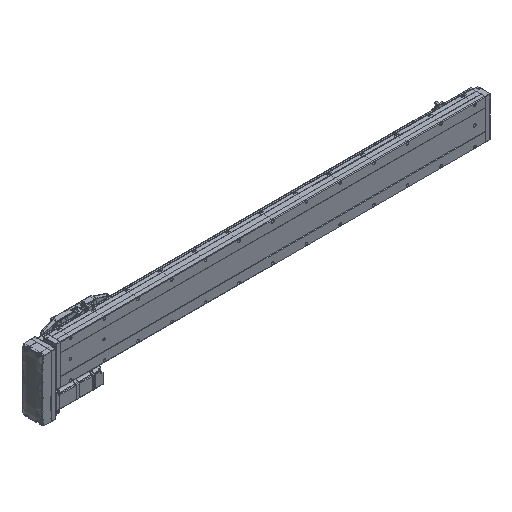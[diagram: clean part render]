
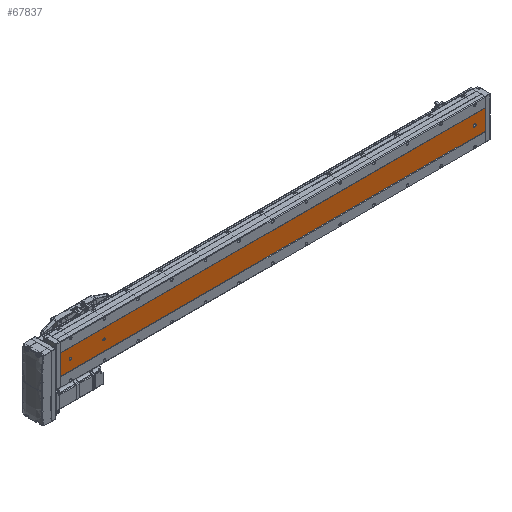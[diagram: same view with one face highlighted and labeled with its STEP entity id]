
A CAD part, isometric view. The second image highlights one B-rep face of the part: STEP entity #67837.
In plain terms, the highlighted planar face has unit normal (0, -1, 0).
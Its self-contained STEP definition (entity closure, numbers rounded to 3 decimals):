
#1698 = LINE ( 'NONE', #2960, #43618 ) ;
#2960 = CARTESIAN_POINT ( 'NONE',  ( -69.892, -52.848, 1261. ) ) ;
#5874 = EDGE_CURVE ( 'NONE', #38605, #82968, #75142, .T. ) ;
#6360 = DIRECTION ( 'NONE',  ( 0., 0., 1. ) ) ;
#6362 = CIRCLE ( 'NONE', #88626, 3.5 ) ;
#7913 = AXIS2_PLACEMENT_3D ( 'NONE', #15787, #50269, #36217 ) ;
#7923 = CARTESIAN_POINT ( 'NONE',  ( -69.892, -52.848, 0. ) ) ;
#7971 = CARTESIAN_POINT ( 'NONE',  ( -43.392, -52.848, 30. ) ) ;
#8079 = DIRECTION ( 'NONE',  ( 0., 1., 0. ) ) ;
#8172 = DIRECTION ( 'NONE',  ( 0., 0., 1. ) ) ;
#8600 = AXIS2_PLACEMENT_3D ( 'NONE', #39058, #24960, #39374 ) ;
#9145 = VECTOR ( 'NONE', #15385, 1000. ) ;
#10035 = CIRCLE ( 'NONE', #74038, 3.5 ) ;
#10038 = VECTOR ( 'NONE', #82312, 1000. ) ;
#10574 = CARTESIAN_POINT ( 'NONE',  ( -9.892, -52.848, 1261. ) ) ;
#11656 = VERTEX_POINT ( 'NONE', #46621 ) ;
#13643 = DIRECTION ( 'NONE',  ( 0., 1., 0. ) ) ;
#14506 = AXIS2_PLACEMENT_3D ( 'NONE', #18455, #59189, #26250 ) ;
#14713 = CARTESIAN_POINT ( 'NONE',  ( -39.892, -52.848, 1131. ) ) ;
#15385 = DIRECTION ( 'NONE',  ( 1., 0., 0. ) ) ;
#15787 = CARTESIAN_POINT ( 'NONE',  ( -39.892, -52.848, 30. ) ) ;
#16691 = CIRCLE ( 'NONE', #26499, 3.5 ) ;
#18402 = ORIENTED_EDGE ( 'NONE', *, *, #29219, .T. ) ;
#18455 = CARTESIAN_POINT ( 'NONE',  ( -39.892, -52.848, 1231. ) ) ;
#18618 = CARTESIAN_POINT ( 'NONE',  ( -9.892, -52.848, 1261. ) ) ;
#19756 = EDGE_CURVE ( 'NONE', #88937, #46860, #55025, .T. ) ;
#20828 = CARTESIAN_POINT ( 'NONE',  ( -39.892, -52.848, 1134.5 ) ) ;
#21614 = DIRECTION ( 'NONE',  ( 0., 0., 1. ) ) ;
#21766 = EDGE_LOOP ( 'NONE', ( #51610, #43356, #29588, #23609 ) ) ;
#21835 = VERTEX_POINT ( 'NONE', #26025 ) ;
#22300 = CARTESIAN_POINT ( 'NONE',  ( -69.892, -52.848, 1261. ) ) ;
#22681 = VERTEX_POINT ( 'NONE', #56989 ) ;
#23022 = EDGE_CURVE ( 'NONE', #60142, #88937, #39118, .T. ) ;
#23609 = ORIENTED_EDGE ( 'NONE', *, *, #54386, .T. ) ;
#24960 = DIRECTION ( 'NONE',  ( 0., 1., 0. ) ) ;
#25049 = ORIENTED_EDGE ( 'NONE', *, *, #19756, .T. ) ;
#26025 = CARTESIAN_POINT ( 'NONE',  ( -39.892, -52.848, 1127.5 ) ) ;
#26250 = DIRECTION ( 'NONE',  ( 0., 0., 1. ) ) ;
#26473 = VERTEX_POINT ( 'NONE', #29555 ) ;
#26499 = AXIS2_PLACEMENT_3D ( 'NONE', #14713, #69894, #21614 ) ;
#27447 = CARTESIAN_POINT ( 'NONE',  ( -39.892, -52.848, 26.5 ) ) ;
#28093 = ORIENTED_EDGE ( 'NONE', *, *, #5874, .T. ) ;
#28258 = ORIENTED_EDGE ( 'NONE', *, *, #23022, .T. ) ;
#29219 = EDGE_CURVE ( 'NONE', #21835, #78270, #16691, .T. ) ;
#29539 = CARTESIAN_POINT ( 'NONE',  ( -39.892, -52.848, 1227.5 ) ) ;
#29555 = CARTESIAN_POINT ( 'NONE',  ( -9.892, -52.848, 0. ) ) ;
#29588 = ORIENTED_EDGE ( 'NONE', *, *, #46964, .F. ) ;
#30032 = DIRECTION ( 'NONE',  ( 0., 0., -1. ) ) ;
#31112 = EDGE_LOOP ( 'NONE', ( #28258, #25049, #33714, #55701, #57771 ) ) ;
#32053 = ORIENTED_EDGE ( 'NONE', *, *, #51091, .T. ) ;
#33714 = ORIENTED_EDGE ( 'NONE', *, *, #34726, .T. ) ;
#34726 = EDGE_CURVE ( 'NONE', #46860, #81814, #38142, .T. ) ;
#35176 = EDGE_CURVE ( 'NONE', #11656, #60142, #10035, .T. ) ;
#36217 = DIRECTION ( 'NONE',  ( 0., 0., 1. ) ) ;
#36435 = CARTESIAN_POINT ( 'NONE',  ( -43.392, -52.848, 1261. ) ) ;
#36692 = DIRECTION ( 'NONE',  ( 0., 1., 0. ) ) ;
#36721 = EDGE_LOOP ( 'NONE', ( #18402, #56649 ) ) ;
#38142 = CIRCLE ( 'NONE', #7913, 3.5 ) ;
#38605 = VERTEX_POINT ( 'NONE', #29539 ) ;
#39058 = CARTESIAN_POINT ( 'NONE',  ( -39.892, -52.848, 30. ) ) ;
#39118 = LINE ( 'NONE', #55002, #10038 ) ;
#39120 = VECTOR ( 'NONE', #50774, 1000. ) ;
#39374 = DIRECTION ( 'NONE',  ( 0., 0., 1. ) ) ;
#39718 = CARTESIAN_POINT ( 'NONE',  ( -36.392, -52.848, 32. ) ) ;
#40631 = PLANE ( 'NONE',  #63473 ) ;
#43356 = ORIENTED_EDGE ( 'NONE', *, *, #88039, .F. ) ;
#43618 = VECTOR ( 'NONE', #30032, 1000. ) ;
#44456 = LINE ( 'NONE', #18618, #72326 ) ;
#46230 = FACE_OUTER_BOUND ( 'NONE', #21766, .T. ) ;
#46621 = CARTESIAN_POINT ( 'NONE',  ( -43.392, -52.848, 32. ) ) ;
#46860 = VERTEX_POINT ( 'NONE', #27447 ) ;
#46964 = EDGE_CURVE ( 'NONE', #22681, #53890, #63841, .T. ) ;
#49179 = CARTESIAN_POINT ( 'NONE',  ( -39.892, -52.848, 1231. ) ) ;
#50269 = DIRECTION ( 'NONE',  ( 0., 1., 0. ) ) ;
#50476 = FACE_BOUND ( 'NONE', #36721, .T. ) ;
#50640 = CARTESIAN_POINT ( 'NONE',  ( -39.892, -52.848, 1234.5 ) ) ;
#50774 = DIRECTION ( 'NONE',  ( 0., 0., 1. ) ) ;
#51091 = EDGE_CURVE ( 'NONE', #82968, #38605, #62263, .T. ) ;
#51610 = ORIENTED_EDGE ( 'NONE', *, *, #71499, .T. ) ;
#53749 = DIRECTION ( 'NONE',  ( 1., 0., 0. ) ) ;
#53792 = CARTESIAN_POINT ( 'NONE',  ( -69.892, -52.848, 1261. ) ) ;
#53890 = VERTEX_POINT ( 'NONE', #10574 ) ;
#54386 = EDGE_CURVE ( 'NONE', #22681, #74496, #1698, .T. ) ;
#55002 = CARTESIAN_POINT ( 'NONE',  ( -36.392, -52.848, 1261. ) ) ;
#55025 = CIRCLE ( 'NONE', #8600, 3.5 ) ;
#55701 = ORIENTED_EDGE ( 'NONE', *, *, #87264, .T. ) ;
#56037 = DIRECTION ( 'NONE',  ( 0., 0., 1. ) ) ;
#56089 = AXIS2_PLACEMENT_3D ( 'NONE', #49179, #8079, #56037 ) ;
#56649 = ORIENTED_EDGE ( 'NONE', *, *, #74258, .T. ) ;
#56989 = CARTESIAN_POINT ( 'NONE',  ( -69.892, -52.848, 1261. ) ) ;
#57332 = CARTESIAN_POINT ( 'NONE',  ( -39.892, -52.848, 32. ) ) ;
#57771 = ORIENTED_EDGE ( 'NONE', *, *, #35176, .T. ) ;
#58386 = LINE ( 'NONE', #36435, #39120 ) ;
#59189 = DIRECTION ( 'NONE',  ( 0., 1., 0. ) ) ;
#60142 = VERTEX_POINT ( 'NONE', #39718 ) ;
#62263 = CIRCLE ( 'NONE', #14506, 3.5 ) ;
#63473 = AXIS2_PLACEMENT_3D ( 'NONE', #53792, #67587, #6360 ) ;
#63841 = LINE ( 'NONE', #22300, #9145 ) ;
#65495 = FACE_BOUND ( 'NONE', #31112, .T. ) ;
#67095 = VECTOR ( 'NONE', #53749, 1000. ) ;
#67587 = DIRECTION ( 'NONE',  ( 0., 1., 0. ) ) ;
#67837 = ADVANCED_FACE ( 'NONE', ( #65495, #50476, #88082, #46230 ), #40631, .F. ) ;
#68230 = CARTESIAN_POINT ( 'NONE',  ( -39.892, -52.848, 1131. ) ) ;
#68408 = EDGE_LOOP ( 'NONE', ( #28093, #32053 ) ) ;
#69894 = DIRECTION ( 'NONE',  ( 0., 1., 0. ) ) ;
#71428 = LINE ( 'NONE', #73285, #67095 ) ;
#71499 = EDGE_CURVE ( 'NONE', #74496, #26473, #71428, .T. ) ;
#72326 = VECTOR ( 'NONE', #81531, 1000. ) ;
#73285 = CARTESIAN_POINT ( 'NONE',  ( -69.892, -52.848, 0. ) ) ;
#74038 = AXIS2_PLACEMENT_3D ( 'NONE', #57332, #36692, #8172 ) ;
#74258 = EDGE_CURVE ( 'NONE', #78270, #21835, #6362, .T. ) ;
#74496 = VERTEX_POINT ( 'NONE', #7923 ) ;
#75142 = CIRCLE ( 'NONE', #56089, 3.5 ) ;
#75737 = DIRECTION ( 'NONE',  ( 0., 0., 1. ) ) ;
#78270 = VERTEX_POINT ( 'NONE', #20828 ) ;
#81531 = DIRECTION ( 'NONE',  ( 0., 0., -1. ) ) ;
#81814 = VERTEX_POINT ( 'NONE', #7971 ) ;
#82312 = DIRECTION ( 'NONE',  ( 0., 0., -1. ) ) ;
#82968 = VERTEX_POINT ( 'NONE', #50640 ) ;
#87264 = EDGE_CURVE ( 'NONE', #81814, #11656, #58386, .T. ) ;
#88039 = EDGE_CURVE ( 'NONE', #53890, #26473, #44456, .T. ) ;
#88082 = FACE_BOUND ( 'NONE', #68408, .T. ) ;
#88359 = CARTESIAN_POINT ( 'NONE',  ( -36.392, -52.848, 30. ) ) ;
#88626 = AXIS2_PLACEMENT_3D ( 'NONE', #68230, #13643, #75737 ) ;
#88937 = VERTEX_POINT ( 'NONE', #88359 ) ;
